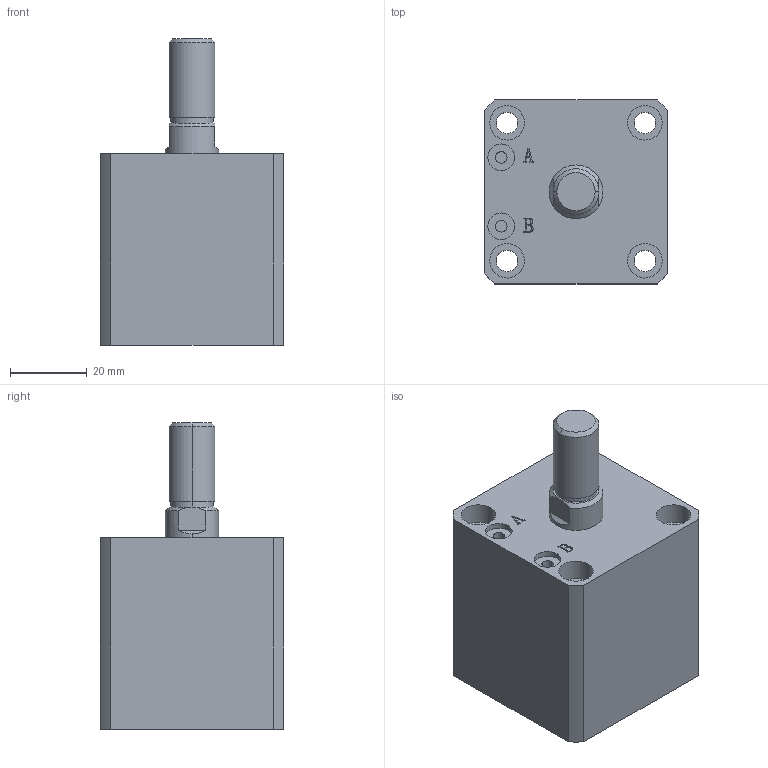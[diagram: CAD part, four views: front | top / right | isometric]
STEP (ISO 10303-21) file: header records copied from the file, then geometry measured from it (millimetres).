
FILE_DESCRIPTION (( 'STEP AP203' ), '1' );
FILE_NAME ('HTB-SDMA25-5W.STEP', '2019-10-07T10:50:14', ( '微软用户' ), ( '微软中国' ), 'SwSTEP 2.0', 'SolidWorks 2012', '' );
FILE_SCHEMA (( 'CONFIG_CONTROL_DESIGN' ));
Length unit declared in the file: millimetre
Products named in the file (3): HTB-SDMA25-5W; HTB-SDMA25-5W活塞杆; HTB-SDMA25-5掛极
Assembly tree (2 placements, depth 2):
  HTB-SDMA25-5W
    HTB-SDMA25-5掛极
    HTB-SDMA25-5W活塞杆
Bounding box: 48 x 48 x 80 mm (x, y, z)
Volume: 109412.2 mm3; surface area: 25645.9 mm2
Topology: 2 solids, 2 shells, 141 faces, 335 edges, 220 vertices
Faces by surface type: plane 67, cylinder 48, bspline 16, torus 6, cone 4
Entity records: 5178 total; most frequent: CARTESIAN_POINT 1609, ORIENTED_EDGE 670, DIRECTION 667, EDGE_CURVE 335, AXIS2_PLACEMENT_3D 242, VERTEX_POINT 220, LINE 183, VECTOR 183
